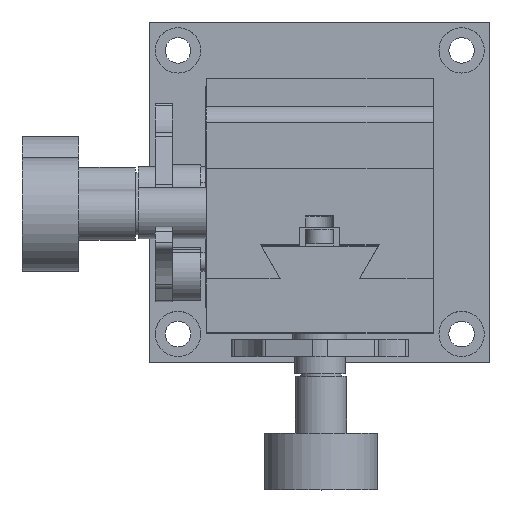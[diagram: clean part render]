
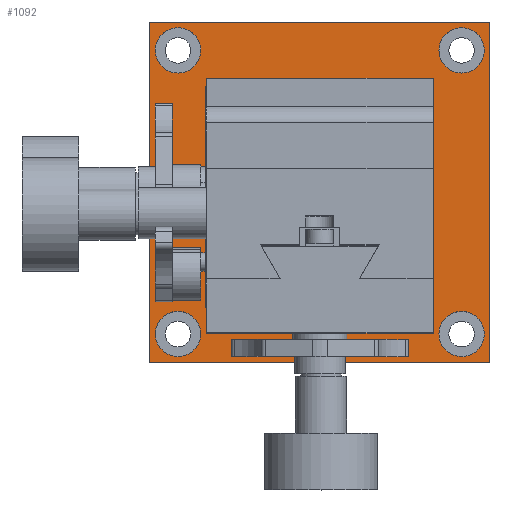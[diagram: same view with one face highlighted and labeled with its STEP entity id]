
A CAD part, top view. The second image highlights one B-rep face of the part: STEP entity #1092.
In plain terms, the highlighted planar face has unit normal (0, 0, 1).
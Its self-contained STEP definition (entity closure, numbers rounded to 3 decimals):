
#1092 = ADVANCED_FACE( '', ( #2337, #2338, #2339, #2340, #2341, #2342 ), #2343, .T. );
#2337 = FACE_OUTER_BOUND( '', #3724, .T. );
#2338 = FACE_BOUND( '', #3725, .T. );
#2339 = FACE_BOUND( '', #3726, .T. );
#2340 = FACE_BOUND( '', #3727, .T. );
#2341 = FACE_BOUND( '', #3728, .T. );
#2342 = FACE_BOUND( '', #3729, .T. );
#2343 = PLANE( '', #3730 );
#3724 = EDGE_LOOP( '', ( #6498, #6499, #6500, #6501 ) );
#3725 = EDGE_LOOP( '', ( #6502 ) );
#3726 = EDGE_LOOP( '', ( #6503 ) );
#3727 = EDGE_LOOP( '', ( #6504 ) );
#3728 = EDGE_LOOP( '', ( #6505 ) );
#3729 = EDGE_LOOP( '', ( #6506, #6507, #6508, #6509 ) );
#3730 = AXIS2_PLACEMENT_3D( '', #6510, #6511, #6512 );
#6498 = ORIENTED_EDGE( '', *, *, #8294, .F. );
#6499 = ORIENTED_EDGE( '', *, *, #7815, .F. );
#6500 = ORIENTED_EDGE( '', *, *, #7700, .F. );
#6501 = ORIENTED_EDGE( '', *, *, #8177, .F. );
#6502 = ORIENTED_EDGE( '', *, *, #8295, .T. );
#6503 = ORIENTED_EDGE( '', *, *, #7503, .T. );
#6504 = ORIENTED_EDGE( '', *, *, #8273, .T. );
#6505 = ORIENTED_EDGE( '', *, *, #7270, .T. );
#6506 = ORIENTED_EDGE( '', *, *, #8147, .F. );
#6507 = ORIENTED_EDGE( '', *, *, #7566, .F. );
#6508 = ORIENTED_EDGE( '', *, *, #8049, .F. );
#6509 = ORIENTED_EDGE( '', *, *, #8296, .F. );
#6510 = CARTESIAN_POINT( '', ( 0., 0., 6. ) );
#6511 = DIRECTION( '', ( 0., 0., 1. ) );
#6512 = DIRECTION( '', ( 0., 1., 0. ) );
#7270 = EDGE_CURVE( '', #8538, #8538, #8539, .T. );
#7503 = EDGE_CURVE( '', #8939, #8939, #8940, .T. );
#7566 = EDGE_CURVE( '', #9040, #9042, #9043, .T. );
#7700 = EDGE_CURVE( '', #9249, #9250, #9251, .T. );
#7815 = EDGE_CURVE( '', #9250, #9428, #9429, .T. );
#8049 = EDGE_CURVE( '', #9751, #9040, #9753, .T. );
#8147 = EDGE_CURVE( '', #9042, #9887, #9888, .T. );
#8177 = EDGE_CURVE( '', #9922, #9249, #9924, .T. );
#8273 = EDGE_CURVE( '', #10033, #10033, #10034, .T. );
#8294 = EDGE_CURVE( '', #9428, #9922, #10058, .T. );
#8295 = EDGE_CURVE( '', #10059, #10059, #10060, .T. );
#8296 = EDGE_CURVE( '', #9887, #9751, #10061, .T. );
#8538 = VERTEX_POINT( '', #10346 );
#8539 = CIRCLE( '', #10347, 4. );
#8939 = VERTEX_POINT( '', #10873 );
#8940 = CIRCLE( '', #10874, 4. );
#9040 = VERTEX_POINT( '', #11007 );
#9042 = VERTEX_POINT( '', #11010 );
#9043 = LINE( '', #11011, #11012 );
#9249 = VERTEX_POINT( '', #11281 );
#9250 = VERTEX_POINT( '', #11282 );
#9251 = LINE( '', #11283, #11284 );
#9428 = VERTEX_POINT( '', #11523 );
#9429 = LINE( '', #11524, #11525 );
#9751 = VERTEX_POINT( '', #11955 );
#9753 = LINE( '', #11958, #11959 );
#9887 = VERTEX_POINT( '', #12132 );
#9888 = LINE( '', #12133, #12134 );
#9922 = VERTEX_POINT( '', #12176 );
#9924 = LINE( '', #12179, #12180 );
#10033 = VERTEX_POINT( '', #12318 );
#10034 = CIRCLE( '', #12319, 4. );
#10058 = LINE( '', #12350, #12351 );
#10059 = VERTEX_POINT( '', #12352 );
#10060 = CIRCLE( '', #12353, 4. );
#10061 = LINE( '', #12354, #12355 );
#10346 = CARTESIAN_POINT( '', ( 25., -21., 6. ) );
#10347 = AXIS2_PLACEMENT_3D( '', #12622, #12623, #12624 );
#10873 = CARTESIAN_POINT( '', ( -25., 29., 6. ) );
#10874 = AXIS2_PLACEMENT_3D( '', #12919, #12920, #12921 );
#11007 = CARTESIAN_POINT( '', ( 20., -20., 6. ) );
#11010 = CARTESIAN_POINT( '', ( 20., 20., 6. ) );
#11011 = CARTESIAN_POINT( '', ( 20., 0., 6. ) );
#11012 = VECTOR( '', #12992, 1000. );
#11281 = CARTESIAN_POINT( '', ( -30., 30., 6. ) );
#11282 = CARTESIAN_POINT( '', ( 30., 30., 6. ) );
#11283 = CARTESIAN_POINT( '', ( 0., 30., 6. ) );
#11284 = VECTOR( '', #13161, 1000. );
#11523 = CARTESIAN_POINT( '', ( 30., -30., 6. ) );
#11524 = CARTESIAN_POINT( '', ( 30., 0., 6. ) );
#11525 = VECTOR( '', #13287, 1000. );
#11955 = CARTESIAN_POINT( '', ( -20., -20., 6. ) );
#11958 = CARTESIAN_POINT( '', ( 0., -20., 6. ) );
#11959 = VECTOR( '', #13547, 1000. );
#12132 = CARTESIAN_POINT( '', ( -20., 20., 6. ) );
#12133 = CARTESIAN_POINT( '', ( 0., 20., 6. ) );
#12134 = VECTOR( '', #13653, 1000. );
#12176 = CARTESIAN_POINT( '', ( -30., -30., 6. ) );
#12179 = CARTESIAN_POINT( '', ( -30., 0., 6. ) );
#12180 = VECTOR( '', #13684, 1000. );
#12318 = CARTESIAN_POINT( '', ( 25., 29., 6. ) );
#12319 = AXIS2_PLACEMENT_3D( '', #13771, #13772, #13773 );
#12350 = CARTESIAN_POINT( '', ( 0., -30., 6. ) );
#12351 = VECTOR( '', #13790, 1000. );
#12352 = CARTESIAN_POINT( '', ( -25., -21., 6. ) );
#12353 = AXIS2_PLACEMENT_3D( '', #13791, #13792, #13793 );
#12354 = CARTESIAN_POINT( '', ( -20., 0., 6. ) );
#12355 = VECTOR( '', #13794, 1000. );
#12622 = CARTESIAN_POINT( '', ( 25., -25., 6. ) );
#12623 = DIRECTION( '', ( 0., 0., -1. ) );
#12624 = DIRECTION( '', ( 0., 1., 0. ) );
#12919 = CARTESIAN_POINT( '', ( -25., 25., 6. ) );
#12920 = DIRECTION( '', ( 0., 0., -1. ) );
#12921 = DIRECTION( '', ( 0., 1., 0. ) );
#12992 = DIRECTION( '', ( 0., 1., 0. ) );
#13161 = DIRECTION( '', ( 1., 0., 0. ) );
#13287 = DIRECTION( '', ( 0., -1., 0. ) );
#13547 = DIRECTION( '', ( 1., 0., 0. ) );
#13653 = DIRECTION( '', ( -1., 0., 0. ) );
#13684 = DIRECTION( '', ( 0., 1., 0. ) );
#13771 = CARTESIAN_POINT( '', ( 25., 25., 6. ) );
#13772 = DIRECTION( '', ( 0., 0., -1. ) );
#13773 = DIRECTION( '', ( 0., 1., 0. ) );
#13790 = DIRECTION( '', ( -1., 0., 0. ) );
#13791 = CARTESIAN_POINT( '', ( -25., -25., 6. ) );
#13792 = DIRECTION( '', ( 0., 0., -1. ) );
#13793 = DIRECTION( '', ( 0., 1., 0. ) );
#13794 = DIRECTION( '', ( 0., -1., 0. ) );
